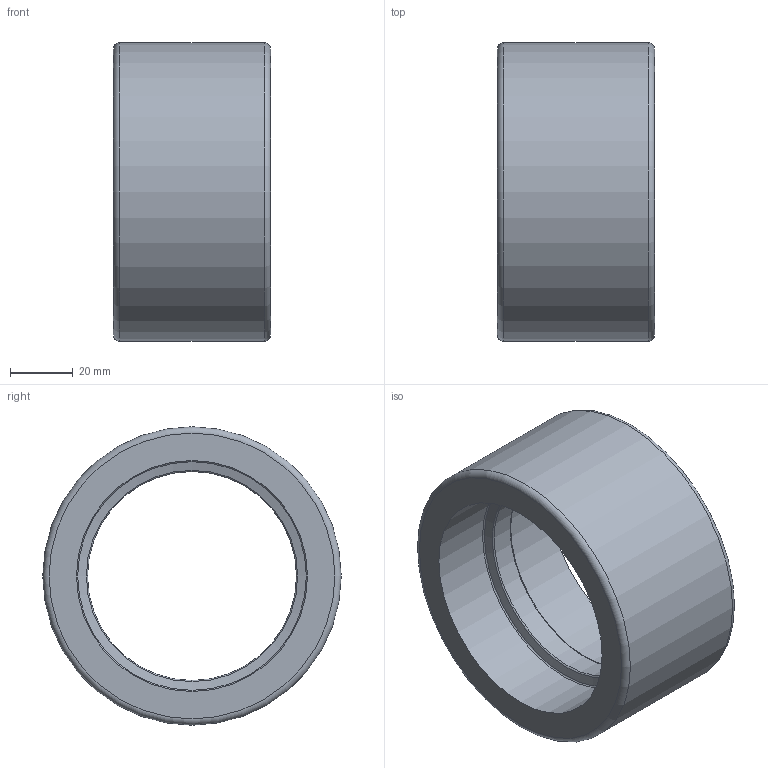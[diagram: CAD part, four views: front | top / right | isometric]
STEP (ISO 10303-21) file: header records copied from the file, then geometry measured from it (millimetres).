
FILE_DESCRIPTION(/* description */ (''),/* implementation_level */ '2;1');
FILE_NAME(/* name */ 'C:\Users\stagistacad\Desktop\00104210.stp',/* time_stamp */ '2018-06-18T16:00:45+02:00',/* author */ ('stagistacad'),/* organization */ (''),/* preprocessor_version */ 'ST-DEVELOPER v15.6',/* originating_system */ 'Autodesk Inventor 2015',/* authorisation */ '');
FILE_SCHEMA (('AUTOMOTIVE_DESIGN { 1 0 10303 214 3 1 1 }'));
Length unit declared in the file: millimetre
Products named in the file (1): 00104210
Bounding box: 50 x 95 x 95 mm (x, y, z)
Volume: 148650.1 mm3; surface area: 32528 mm2
Topology: 1 solids, 1 shells, 14 faces, 26 edges, 14 vertices
Faces by surface type: torus 6, cylinder 4, plane 2, cone 2
Full cylindrical faces by diameter (mm): 66.5 x1, 73.5 x2, 95 x1
Entity records: 312 total; most frequent: DIRECTION 58, CARTESIAN_POINT 43, AXIS2_PLACEMENT_3D 29, EDGE_LOOP 28, ORIENTED_EDGE 28, FACE_BOUND 14, FACE_OUTER_BOUND 14, CIRCLE 14
